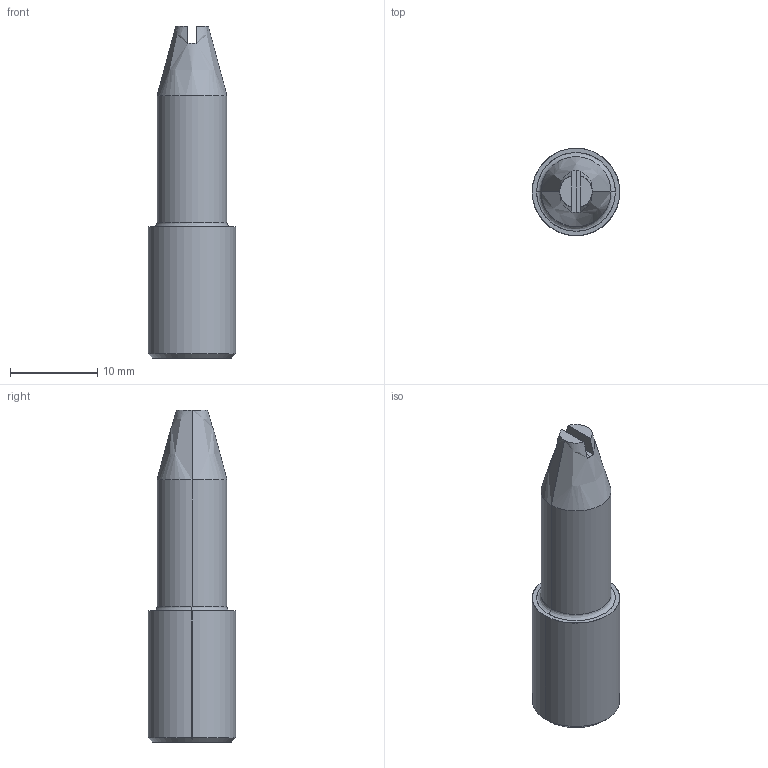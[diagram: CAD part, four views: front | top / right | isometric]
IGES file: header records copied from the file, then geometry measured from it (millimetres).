
Global section: file name: E:\UnigraphicsGraphicData\MISUMI_PRESS-PARTS\IGES\3d_sdsth10-p8.00-b15_02968_r00.igs; native system: NX V5.0; preprocessor: UGS NX IGES V5.0; author: MISUMI; date: 20110105.162517; units: millimetre
Bounding box: 10 x 10 x 38 mm (x, y, z)
Surface area: 1343.3 mm2 (no closed solid volume)
Topology: 0 solids, 0 shells, 21 faces, 124 edges, 124 vertices
Faces by surface type: bspline 21
